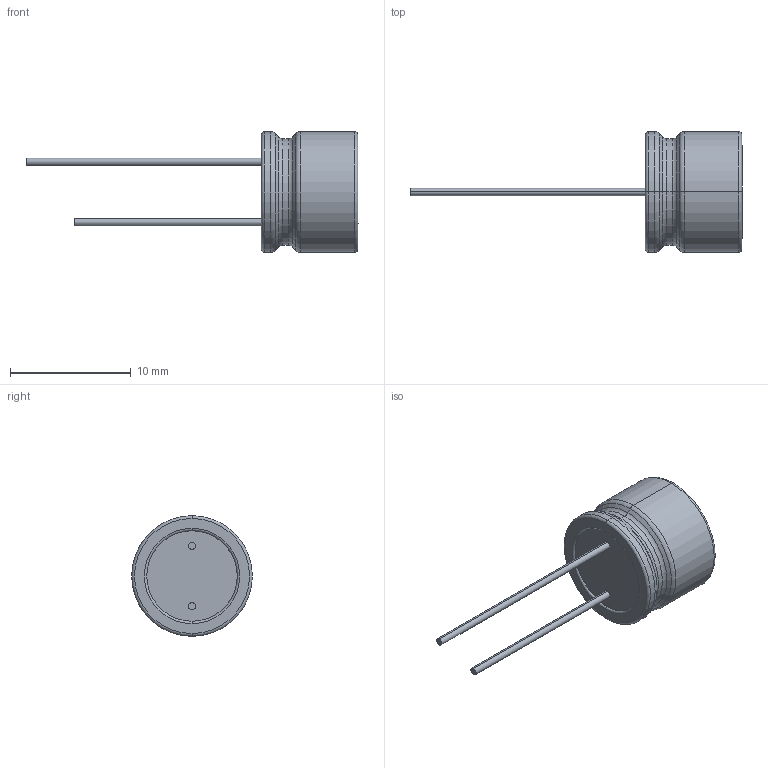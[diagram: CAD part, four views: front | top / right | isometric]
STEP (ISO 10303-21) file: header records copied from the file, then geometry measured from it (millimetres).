
FILE_DESCRIPTION((''),'2;1');
FILE_NAME('POLYMER-RADIAL10X8','2020-06-03T',('xy'),(''),'PRO/ENGINEER BY PARAMETRIC TECHNOLOGY CORPORATION, 2009380','PRO/ENGINEER BY PARAMETRIC TECHNOLOGY CORPORATION, 2009380','');
FILE_SCHEMA(('CONFIG_CONTROL_DESIGN'));
Length unit declared in the file: millimetre
Products named in the file (1): POLYMER-RADIAL10X8
Bounding box: 27.5 x 10 x 10 mm (x, y, z)
Volume: 602.5 mm3; surface area: 478.3 mm2
Topology: 1 solids, 1 shells, 419 faces, 1154 edges, 762 vertices
Faces by surface type: plane 387, torus 15, cylinder 13, cone 4
Entity records: 13121 total; most frequent: CARTESIAN_POINT 2359, ORIENTED_EDGE 2308, DIRECTION 2042, EDGE_CURVE 1154, VECTOR 1098, LINE 1098, VERTEX_POINT 762, AXIS2_PLACEMENT_3D 472
